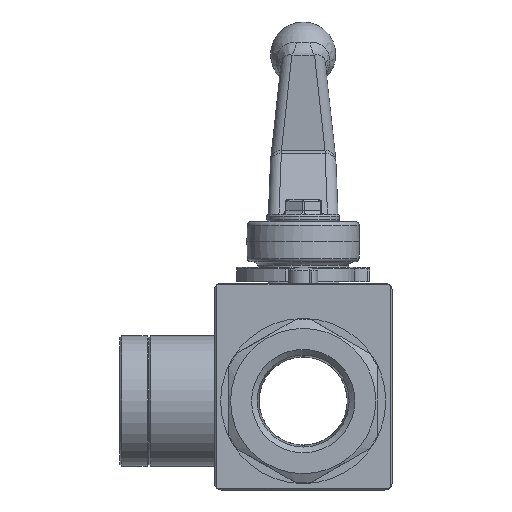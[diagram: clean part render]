
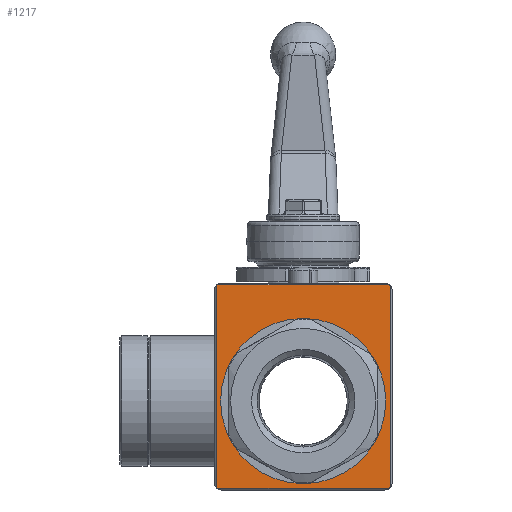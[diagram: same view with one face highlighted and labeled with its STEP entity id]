
A CAD part, front view. The second image highlights one B-rep face of the part: STEP entity #1217.
In plain terms, the highlighted planar face has unit normal (0, -1, 0).
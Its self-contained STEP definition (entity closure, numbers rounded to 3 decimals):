
#1217 = ADVANCED_FACE( '', ( #2470, #2471 ), #2472, .T. );
#2470 = FACE_OUTER_BOUND( '', #4584, .T. );
#2471 = FACE_BOUND( '', #4585, .T. );
#2472 = PLANE( '', #4586 );
#4584 = EDGE_LOOP( '', ( #7627, #7628, #7629, #7630, #7631, #7632, #7633, #7634 ) );
#4585 = EDGE_LOOP( '', ( #7635 ) );
#4586 = AXIS2_PLACEMENT_3D( '', #7636, #7637, #7638 );
#7627 = ORIENTED_EDGE( '', *, *, #8717, .T. );
#7628 = ORIENTED_EDGE( '', *, *, #9866, .T. );
#7629 = ORIENTED_EDGE( '', *, *, #9867, .T. );
#7630 = ORIENTED_EDGE( '', *, *, #8774, .T. );
#7631 = ORIENTED_EDGE( '', *, *, #9554, .T. );
#7632 = ORIENTED_EDGE( '', *, *, #9029, .T. );
#7633 = ORIENTED_EDGE( '', *, *, #9374, .T. );
#7634 = ORIENTED_EDGE( '', *, *, #9738, .T. );
#7635 = ORIENTED_EDGE( '', *, *, #8867, .F. );
#7636 = CARTESIAN_POINT( '', ( -24.5, -31.1, -24.5 ) );
#7637 = DIRECTION( '', ( 0., -1., 0. ) );
#7638 = DIRECTION( '', ( 0., 0., -1. ) );
#8717 = EDGE_CURVE( '', #10122, #10120, #10123, .T. );
#8774 = EDGE_CURVE( '', #10212, #10224, #10226, .T. );
#8867 = EDGE_CURVE( '', #10388, #10388, #10389, .T. );
#9029 = EDGE_CURVE( '', #10647, #10654, #10656, .T. );
#9374 = EDGE_CURVE( '', #10654, #11211, #11212, .T. );
#9554 = EDGE_CURVE( '', #10224, #10647, #11461, .T. );
#9738 = EDGE_CURVE( '', #11211, #10122, #11711, .T. );
#9866 = EDGE_CURVE( '', #10120, #11864, #11865, .T. );
#9867 = EDGE_CURVE( '', #11864, #10212, #11866, .T. );
#10120 = VERTEX_POINT( '', #12161 );
#10122 = VERTEX_POINT( '', #12163 );
#10123 = LINE( '', #12164, #12165 );
#10212 = VERTEX_POINT( '', #12296 );
#10224 = VERTEX_POINT( '', #12310 );
#10226 = CIRCLE( '', #12312, 2. );
#10388 = VERTEX_POINT( '', #12620 );
#10389 = CIRCLE( '', #12621, 22.75 );
#10647 = VERTEX_POINT( '', #13255 );
#10654 = VERTEX_POINT( '', #13263 );
#10656 = CIRCLE( '', #13265, 2. );
#11211 = VERTEX_POINT( '', #14301 );
#11212 = LINE( '', #14302, #14303 );
#11461 = LINE( '', #14796, #14797 );
#11711 = CIRCLE( '', #15350, 2. );
#11864 = VERTEX_POINT( '', #15649 );
#11865 = CIRCLE( '', #15650, 2. );
#11866 = LINE( '', #15651, #15652 );
#12161 = CARTESIAN_POINT( '', ( 23.823, -31.1, -24. ) );
#12163 = CARTESIAN_POINT( '', ( -23.823, -31.1, -24. ) );
#12164 = CARTESIAN_POINT( '', ( 24.5, -31.1, -24. ) );
#12165 = VECTOR( '', #16003, 1000. );
#12296 = CARTESIAN_POINT( '', ( 24., -31.1, 31.823 ) );
#12310 = CARTESIAN_POINT( '', ( 23.823, -31.1, 32. ) );
#12312 = AXIS2_PLACEMENT_3D( '', #16090, #16091, #16092 );
#12620 = CARTESIAN_POINT( '', ( 22.75, -31.1, 0. ) );
#12621 = AXIS2_PLACEMENT_3D( '', #16202, #16203, #16204 );
#13255 = CARTESIAN_POINT( '', ( -23.823, -31.1, 32. ) );
#13263 = CARTESIAN_POINT( '', ( -24., -31.1, 31.823 ) );
#13265 = AXIS2_PLACEMENT_3D( '', #16413, #16414, #16415 );
#14301 = CARTESIAN_POINT( '', ( -24., -31.1, -23.823 ) );
#14302 = CARTESIAN_POINT( '', ( -24., -31.1, -24.5 ) );
#14303 = VECTOR( '', #16922, 1000. );
#14796 = CARTESIAN_POINT( '', ( -24.5, -31.1, 32. ) );
#14797 = VECTOR( '', #17132, 1000. );
#15350 = AXIS2_PLACEMENT_3D( '', #17330, #17331, #17332 );
#15649 = CARTESIAN_POINT( '', ( 24., -31.1, -23.823 ) );
#15650 = AXIS2_PLACEMENT_3D( '', #17453, #17454, #17455 );
#15651 = CARTESIAN_POINT( '', ( 24., -31.1, 32.5 ) );
#15652 = VECTOR( '', #17456, 1000. );
#16003 = DIRECTION( '', ( 1., 0., 0. ) );
#16090 = CARTESIAN_POINT( '', ( 22.5, -31.1, 30.5 ) );
#16091 = DIRECTION( '', ( 0., -1., 0. ) );
#16092 = DIRECTION( '', ( 0., 0., -1. ) );
#16202 = CARTESIAN_POINT( '', ( 0., -31.1, 0. ) );
#16203 = DIRECTION( '', ( 0., -1., 0. ) );
#16204 = DIRECTION( '', ( 1., 0., 0. ) );
#16413 = CARTESIAN_POINT( '', ( -22.5, -31.1, 30.5 ) );
#16414 = DIRECTION( '', ( 0., -1., 0. ) );
#16415 = DIRECTION( '', ( 0., 0., -1. ) );
#16922 = DIRECTION( '', ( 0., 0., -1. ) );
#17132 = DIRECTION( '', ( -1., 0., 0. ) );
#17330 = CARTESIAN_POINT( '', ( -22.5, -31.1, -22.5 ) );
#17331 = DIRECTION( '', ( 0., -1., 0. ) );
#17332 = DIRECTION( '', ( 0., 0., -1. ) );
#17453 = CARTESIAN_POINT( '', ( 22.5, -31.1, -22.5 ) );
#17454 = DIRECTION( '', ( 0., -1., 0. ) );
#17455 = DIRECTION( '', ( 0., 0., -1. ) );
#17456 = DIRECTION( '', ( 0., 0., 1. ) );
